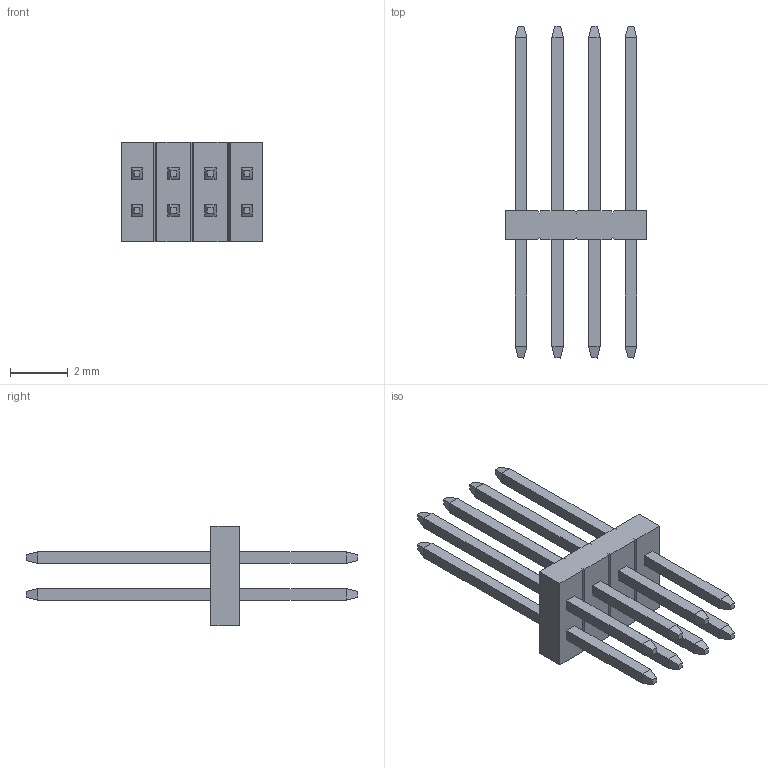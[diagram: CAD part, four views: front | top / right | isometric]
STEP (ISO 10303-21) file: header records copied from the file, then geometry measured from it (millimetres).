
FILE_DESCRIPTION (( 'STEP AP203' ), '1' );
FILE_NAME ('2215-2X04G00S-4.1-6.4B-1101102.STEP', '2021-11-02T09:57:45', ( '' ), ( '' ), 'SwSTEP 2.0', 'SolidWorks 2019', '' );
FILE_SCHEMA (( 'CONFIG_CONTROL_DESIGN' ));
Length unit declared in the file: millimetre
Products named in the file (2): 2215-2X03G00S-2.3-3B; 2215-2X04G00S-4.1-6.4B-1101102
Assembly tree (1 placements, depth 2):
  2215-2X04G00S-4.1-6.4B-1101102
    2215-2X03G00S-2.3-3B
Bounding box: 4.88 x 11.5 x 3.45 mm (x, y, z)
Volume: 29.8 mm3; surface area: 182.5 mm2
Topology: 1 solids, 1 shells, 168 faces, 386 edges, 236 vertices
Faces by surface type: plane 168
Entity records: 4754 total; most frequent: CARTESIAN_POINT 794, ORIENTED_EDGE 772, DIRECTION 730, EDGE_CURVE 386, LINE 386, VECTOR 386, VERTEX_POINT 236, EDGE_LOOP 184
